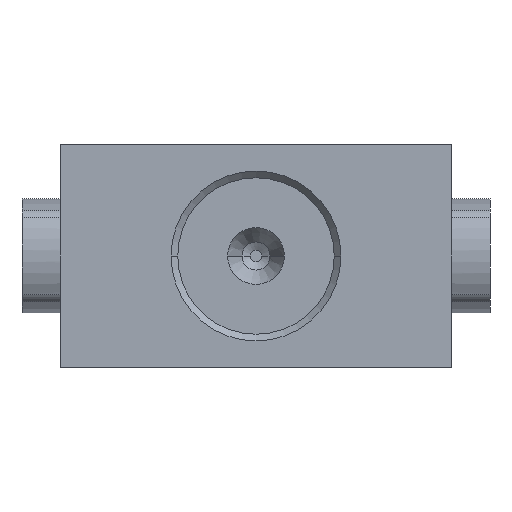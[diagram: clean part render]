
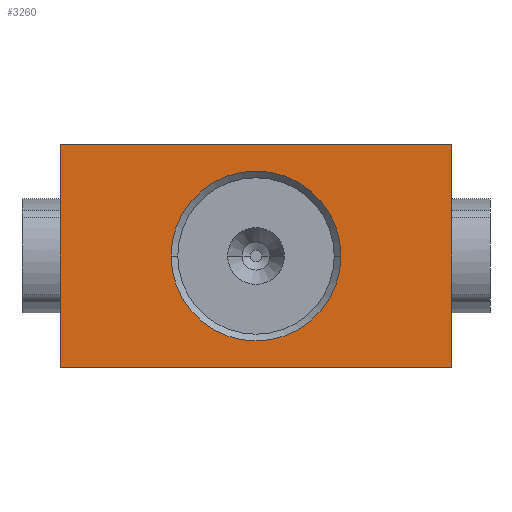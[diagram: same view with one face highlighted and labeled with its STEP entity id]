
A CAD part, front view. The second image highlights one B-rep face of the part: STEP entity #3260.
In plain terms, the highlighted planar face has unit normal (0, -1, 0).
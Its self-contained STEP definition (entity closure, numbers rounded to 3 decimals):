
#105 = ORIENTED_EDGE ( 'NONE', *, *, #1289, .T. ) ;
#155 = FACE_OUTER_BOUND ( 'NONE', #846, .T. ) ;
#188 = EDGE_CURVE ( 'NONE', #2995, #216, #2735, .T. ) ;
#190 = ORIENTED_EDGE ( 'NONE', *, *, #762, .F. ) ;
#210 = AXIS2_PLACEMENT_3D ( 'NONE', #2002, #572, #1174 ) ;
#216 = VERTEX_POINT ( 'NONE', #975 ) ;
#276 = CIRCLE ( 'NONE', #210, 14.52 ) ;
#452 = CARTESIAN_POINT ( 'NONE',  ( 33.5, -38., 19. ) ) ;
#470 = VERTEX_POINT ( 'NONE', #2222 ) ;
#572 = DIRECTION ( 'NONE',  ( 0., 1., 0. ) ) ;
#686 = PLANE ( 'NONE',  #906 ) ;
#742 = EDGE_CURVE ( 'NONE', #1661, #2995, #2725, .T. ) ;
#762 = EDGE_CURVE ( 'NONE', #1943, #216, #1268, .T. ) ;
#846 = EDGE_LOOP ( 'NONE', ( #1058, #190, #1799, #3378 ) ) ;
#906 = AXIS2_PLACEMENT_3D ( 'NONE', #1296, #2110, #2916 ) ;
#961 = EDGE_CURVE ( 'NONE', #1661, #1943, #2812, .T. ) ;
#975 = CARTESIAN_POINT ( 'NONE',  ( 33.5, -38., -19. ) ) ;
#984 = CARTESIAN_POINT ( 'NONE',  ( -33.5, -38., 19. ) ) ;
#1051 = DIRECTION ( 'NONE',  ( 1., 0., 0. ) ) ;
#1058 = ORIENTED_EDGE ( 'NONE', *, *, #188, .T. ) ;
#1106 = CARTESIAN_POINT ( 'NONE',  ( 0., -38., 0. ) ) ;
#1130 = VECTOR ( 'NONE', #1568, 1000. ) ;
#1152 = EDGE_LOOP ( 'NONE', ( #2791, #105 ) ) ;
#1174 = DIRECTION ( 'NONE',  ( 0., 0., 1. ) ) ;
#1268 = LINE ( 'NONE', #1886, #1604 ) ;
#1289 = EDGE_CURVE ( 'NONE', #470, #1343, #1899, .T. ) ;
#1296 = CARTESIAN_POINT ( 'NONE',  ( -33.5, -38., 19. ) ) ;
#1343 = VERTEX_POINT ( 'NONE', #2826 ) ;
#1534 = VECTOR ( 'NONE', #3044, 1000. ) ;
#1568 = DIRECTION ( 'NONE',  ( 0., 0., -1. ) ) ;
#1604 = VECTOR ( 'NONE', #2670, 1000. ) ;
#1661 = VERTEX_POINT ( 'NONE', #2489 ) ;
#1783 = EDGE_CURVE ( 'NONE', #1343, #470, #276, .T. ) ;
#1799 = ORIENTED_EDGE ( 'NONE', *, *, #961, .F. ) ;
#1886 = CARTESIAN_POINT ( 'NONE',  ( 33.5, -38., 19. ) ) ;
#1894 = CARTESIAN_POINT ( 'NONE',  ( -33.5, -38., -19. ) ) ;
#1899 = CIRCLE ( 'NONE', #3358, 14.52 ) ;
#1943 = VERTEX_POINT ( 'NONE', #452 ) ;
#1953 = DIRECTION ( 'NONE',  ( 0., 1., 0. ) ) ;
#2002 = CARTESIAN_POINT ( 'NONE',  ( 0., -38., 0. ) ) ;
#2110 = DIRECTION ( 'NONE',  ( 0., 1., 0. ) ) ;
#2222 = CARTESIAN_POINT ( 'NONE',  ( -14.52, -38., 0. ) ) ;
#2479 = VECTOR ( 'NONE', #1051, 1000. ) ;
#2489 = CARTESIAN_POINT ( 'NONE',  ( -33.5, -38., 19. ) ) ;
#2670 = DIRECTION ( 'NONE',  ( 0., 0., -1. ) ) ;
#2692 = FACE_BOUND ( 'NONE', #1152, .T. ) ;
#2725 = LINE ( 'NONE', #984, #1130 ) ;
#2735 = LINE ( 'NONE', #3568, #2479 ) ;
#2775 = CARTESIAN_POINT ( 'NONE',  ( -33.5, -38., 19. ) ) ;
#2791 = ORIENTED_EDGE ( 'NONE', *, *, #1783, .T. ) ;
#2812 = LINE ( 'NONE', #2775, #1534 ) ;
#2826 = CARTESIAN_POINT ( 'NONE',  ( 14.52, -38., 0. ) ) ;
#2916 = DIRECTION ( 'NONE',  ( 0., 0., 1. ) ) ;
#2995 = VERTEX_POINT ( 'NONE', #1894 ) ;
#3044 = DIRECTION ( 'NONE',  ( 1., 0., 0. ) ) ;
#3057 = DIRECTION ( 'NONE',  ( 0., 0., 1. ) ) ;
#3260 = ADVANCED_FACE ( 'NONE', ( #2692, #155 ), #686, .F. ) ;
#3358 = AXIS2_PLACEMENT_3D ( 'NONE', #1106, #1953, #3057 ) ;
#3378 = ORIENTED_EDGE ( 'NONE', *, *, #742, .T. ) ;
#3568 = CARTESIAN_POINT ( 'NONE',  ( -33.5, -38., -19. ) ) ;
